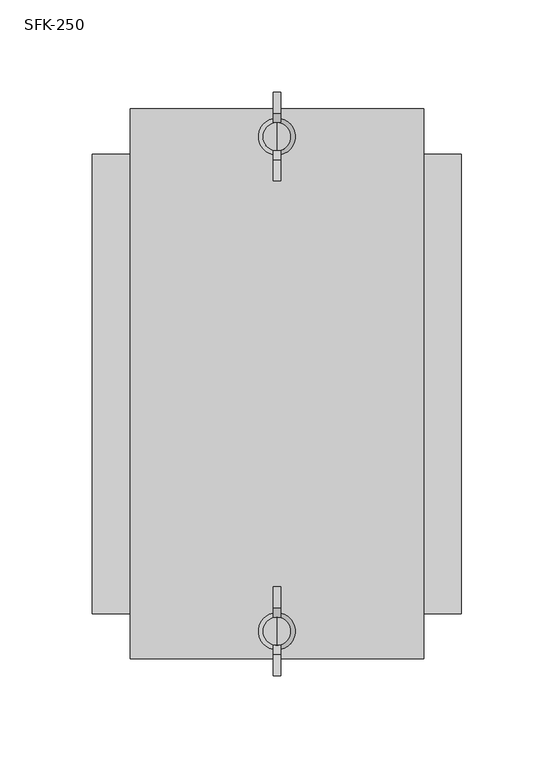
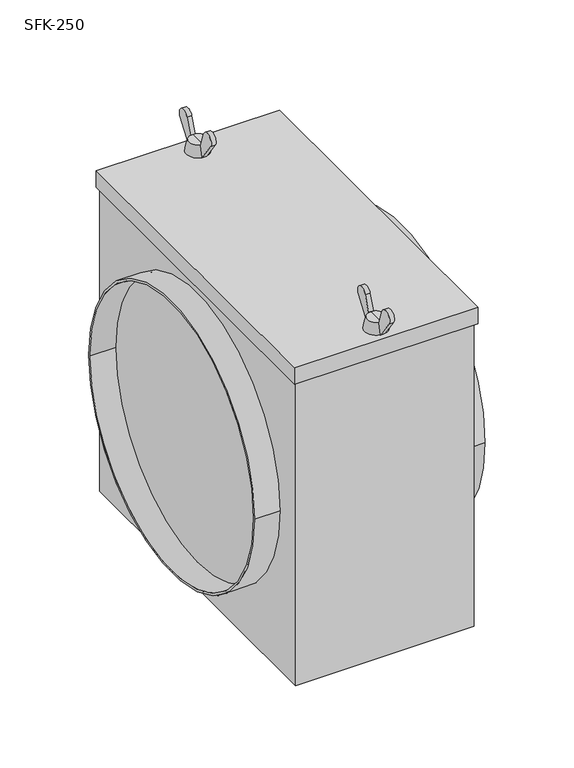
"""IFC4 building model written with IfcOpenShell, lengths in millimetres: damper geometry, СВ_ФильтрКассетный_КанальныйКруглый_DN100-315_SFK : SFK-250."""

from ifc_helpers import new_model, si_unit, point, frame, frame_2d, origin, origin_2d, place, context, project, spatial, polyline, circle_curve, trimmed, segment, composite_curve, outline, extrude, source, transform, mapped, element, save
from ifc_brep_helpers import plane_surface, revolved_surface, advanced_brep


def sfk_250_156bbf97(model_context):
    return source(origin(), model_context, "Body", "SolidModel", [
        extrude(outline(composite_curve([segment(polyline([(-111.1098085, 164.2418266), (-124.0, 146.5), (-126.3086819, 156.5), (-121.483336, 169.757529)]), True, "CONTINUOUS"), segment(trimmed(circle_curve(frame_2d((-115.9089815, 167.7286299)), 5.9321041), [point((-121.483336, 169.757529))], [point((-111.1098085, 164.2418266))], False, "CARTESIAN"), True, "CONTINUOUS")], self_intersect=False)), frame((-2.0, 0.0, 0.0), z_axis=(1.0, 0.0, 0.0), x_axis=(0.0, 1.0, 0.0)), (0.0, 0.0, 1.0), 4.0),
        extrude(outline(composite_curve([segment(trimmed(circle_curve(frame_2d((-152.0910185, 167.7286299)), 5.9321041), [point((-156.8901915, 164.2418266))], [point((-146.516664, 169.757529))], False, "CARTESIAN"), True, "CONTINUOUS"), segment(polyline([(-146.516664, 169.757529), (-141.6913181, 156.5), (-144.0, 146.5), (-156.8901915, 164.2418266)]), True, "CONTINUOUS")], self_intersect=False)), frame((-2.0, 0.0, 0.0), z_axis=(1.0, 0.0, 0.0), x_axis=(0.0, 1.0, 0.0)), (0.0, 0.0, 1.0), 4.0),
        advanced_brep(
        [(0.0, -141.6913181, 156.5), (0.0, -126.3086819, 156.5), (0.0, -124.0, 146.5), (0.0, -144.0, 146.5), (0.0, -134.0, 156.5), (0.0, -134.0, 146.5)],
        [
            (0, 1, circle_curve(frame((0.0, -134.0, 156.5), z_axis=(0.0, 0.0, -1.0), x_axis=(0.0, 1.0, 0.0)), 7.6913181)),
            (1, 2),
            (2, 3, circle_curve(frame((0.0, -134.0, 146.5), z_axis=(0.0, 0.0, 1.0), x_axis=(0.0, 1.0, 0.0)), 10.0)),
            (3, 0),
            (1, 0, circle_curve(frame((0.0, -134.0, 156.5), z_axis=(0.0, 0.0, -1.0), x_axis=(0.0, 1.0, 0.0)), 7.6913181)),
            (3, 2, circle_curve(frame((0.0, -134.0, 146.5), z_axis=(0.0, 0.0, 1.0), x_axis=(0.0, 1.0, 0.0)), 10.0)),
            (4, 1),
            (0, 4),
            (2, 5),
            (5, 3),
        ],
        [
            revolved_surface(polyline([(0.0, -124.0, 146.5), (0.0, -126.3086819, 156.5)]), (0.0, -134.0, 146.5), (0.0, 0.0, 1.0)),
            plane_surface(frame((0.0, -134.0, 156.5), z_axis=(0.0, 0.0, 1.0), x_axis=(0.0, 1.0, 0.0))),
            plane_surface(frame((0.0, -134.0, 146.5), z_axis=(0.0, 0.0, -1.0), x_axis=(0.0, 1.0, 0.0))),
        ],
        [
            (0, [[1, 2, 3, 4]]),
            (0, [[5, -4, 6, -2]]),
            (1, [[7, -1, 8]]),
            (1, [[-8, -5, -7]]),
            (2, [[-3, 9, 10]]),
            (2, [[-6, -10, -9]]),
        ],
    ),
        extrude(outline(composite_curve([segment(polyline([(156.8901915, 164.2418266), (144.0, 146.5), (141.6913181, 156.5), (146.516664, 169.757529)]), True, "CONTINUOUS"), segment(trimmed(circle_curve(frame_2d((152.0910185, 167.7286299)), 5.9321041), [point((146.516664, 169.757529))], [point((156.8901915, 164.2418266))], False, "CARTESIAN"), True, "CONTINUOUS")], self_intersect=False)), frame((-2.0, 0.0, 0.0), z_axis=(1.0, 0.0, 0.0), x_axis=(0.0, 1.0, 0.0)), (0.0, 0.0, 1.0), 4.0),
        extrude(outline(composite_curve([segment(trimmed(circle_curve(frame_2d((115.9089815, 167.7286299)), 5.9321041), [point((111.1098085, 164.2418266))], [point((121.483336, 169.757529))], False, "CARTESIAN"), True, "CONTINUOUS"), segment(polyline([(121.483336, 169.757529), (126.3086819, 156.5), (124.0, 146.5), (111.1098085, 164.2418266)]), True, "CONTINUOUS")], self_intersect=False)), frame((-2.0, 0.0, 0.0), z_axis=(1.0, 0.0, 0.0), x_axis=(0.0, 1.0, 0.0)), (0.0, 0.0, 1.0), 4.0),
        advanced_brep(
        [(0.0, 126.3086819, 156.5), (0.0, 141.6913181, 156.5), (0.0, 144.0, 146.5), (0.0, 124.0, 146.5), (0.0, 134.0, 156.5), (0.0, 134.0, 146.5)],
        [
            (0, 1, circle_curve(frame((0.0, 134.0, 156.5), z_axis=(0.0, 0.0, -1.0), x_axis=(0.0, 1.0, 0.0)), 7.6913181)),
            (1, 2),
            (2, 3, circle_curve(frame((0.0, 134.0, 146.5), z_axis=(0.0, 0.0, 1.0), x_axis=(0.0, 1.0, 0.0)), 10.0)),
            (3, 0),
            (1, 0, circle_curve(frame((0.0, 134.0, 156.5), z_axis=(0.0, 0.0, -1.0), x_axis=(0.0, 1.0, 0.0)), 7.6913181)),
            (3, 2, circle_curve(frame((0.0, 134.0, 146.5), z_axis=(0.0, 0.0, 1.0), x_axis=(0.0, 1.0, 0.0)), 10.0)),
            (4, 1),
            (0, 4),
            (2, 5),
            (5, 3),
        ],
        [
            revolved_surface(polyline([(0.0, 144.0, 146.5), (0.0, 141.6913181, 156.5)]), (0.0, 134.0, 146.5), (0.0, 0.0, 1.0)),
            plane_surface(frame((0.0, 134.0, 156.5), z_axis=(0.0, 0.0, 1.0), x_axis=(0.0, 1.0, 0.0))),
            plane_surface(frame((0.0, 134.0, 146.5), z_axis=(0.0, 0.0, -1.0), x_axis=(0.0, 1.0, 0.0))),
        ],
        [
            (0, [[1, 2, 3, 4]]),
            (0, [[5, -4, 6, -2]]),
            (1, [[7, -1, 8]]),
            (1, [[-8, -5, -7]]),
            (2, [[-3, 9, 10]]),
            (2, [[-6, -10, -9]]),
        ],
    ),
        extrude(outline(polyline([(-79.5, 149.0), (79.5, 149.0), (79.5, -149.0), (-79.5, -149.0), (-79.5, 149.0)])), frame((0.0, 0.0, 131.5), z_axis=(0.0, 0.0, 1.0), x_axis=(1.0, 0.0, 0.0)), (0.0, 0.0, 1.0), 15.0),
        extrude(outline(polyline([(77.5, -147.0), (-77.5, -147.0), (-77.5, 147.0), (77.5, 147.0), (77.5, -147.0)])), frame((0.0, 0.0, -146.5), z_axis=(0.0, 0.0, 1.0), x_axis=(1.0, 0.0, 0.0)), (0.0, 0.0, 1.0), 278.0),
        extrude(outline(composite_curve([segment(trimmed(circle_curve(origin_2d(), 124.5), [point((-124.5, 0.0))], [point((124.5, 0.0))], False, "CARTESIAN"), True, "CONTINUOUS"), segment(trimmed(circle_curve(origin_2d(), 124.5), [point((124.5, 0.0))], [point((-124.5, 0.0))], False, "CARTESIAN"), True, "CONTINUOUS")], self_intersect=False), holes=[composite_curve([segment(trimmed(circle_curve(origin_2d(), 122.5), [point((-122.5, 0.0))], [point((122.5, 0.0))], True, "CARTESIAN"), True, "CONTINUOUS"), segment(trimmed(circle_curve(origin_2d(), 122.5), [point((122.5, 0.0))], [point((-122.5, 0.0))], True, "CARTESIAN"), True, "CONTINUOUS")], self_intersect=False)]), frame((-100.0, 0.0, 0.0), z_axis=(1.0, 0.0, 0.0), x_axis=(0.0, 1.0, 0.0)), (0.0, 0.0, 1.0), 22.5),
        extrude(outline(composite_curve([segment(trimmed(circle_curve(origin_2d(), 124.5), [point((-124.5, 0.0))], [point((124.5, 0.0))], False, "CARTESIAN"), True, "CONTINUOUS"), segment(trimmed(circle_curve(origin_2d(), 124.5), [point((124.5, 0.0))], [point((-124.5, 0.0))], False, "CARTESIAN"), True, "CONTINUOUS")], self_intersect=False), holes=[composite_curve([segment(trimmed(circle_curve(origin_2d(), 122.5), [point((-122.5, 0.0))], [point((122.5, 0.0))], True, "CARTESIAN"), True, "CONTINUOUS"), segment(trimmed(circle_curve(origin_2d(), 122.5), [point((122.5, 0.0))], [point((-122.5, 0.0))], True, "CARTESIAN"), True, "CONTINUOUS")], self_intersect=False)]), frame((77.5, 0.0, 0.0), z_axis=(1.0, 0.0, 0.0), x_axis=(0.0, 1.0, 0.0)), (0.0, 0.0, 1.0), 22.5),
    ])


if __name__ == "__main__":
    model = new_model("IFC4")
    model_context = context("Model", 3, world=origin())
    ifc_project = project(units=[si_unit("LENGTHUNIT", "METRE", prefix="MILLI")], contexts=[model_context])
    site = spatial("IfcSite", under=ifc_project)
    building = spatial("IfcBuilding", under=site)
    placement = place(None, origin())
    sfk_250_shape = sfk_250_156bbf97(model_context)
    element("IfcDamper", 1, ObjectType="СВ_ФильтрКассетный_КанальныйКруглый_DN100-315_SFK : SFK-250", at=placement, inside=building, context=model_context, shape_type="MappedRepresentation", body=[
        mapped(sfk_250_shape, transform((0.0, 0.0, 0.0), x_axis=(1.0, 0.0, 0.0), y_axis=(0.0, 1.0, 0.0), z_axis=(0.0, 0.0, 1.0))),
    ])
    save(model, "model.ifc")
